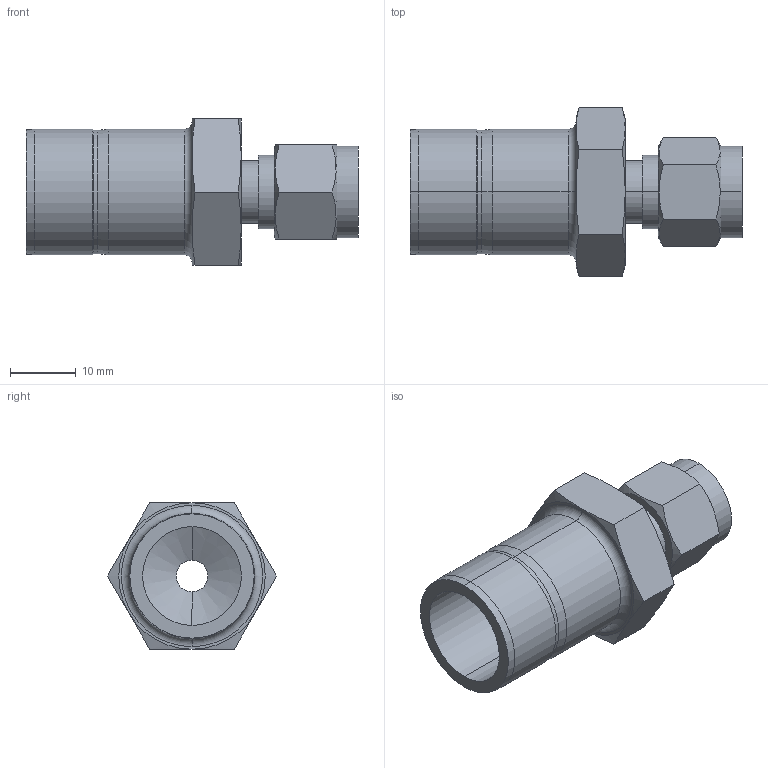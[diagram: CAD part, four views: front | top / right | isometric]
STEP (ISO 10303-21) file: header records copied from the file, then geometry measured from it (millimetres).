
FILE_DESCRIPTION (( 'STEP AP203' ), '1' );
FILE_NAME ('DRE04-12 SS.STEP', '2009-09-08T08:37:40', ( ' ' ), ( '' ), 'SwSTEP 2.0', 'SolidWorks 2008', '' );
FILE_SCHEMA (( 'CONFIG_CONTROL_DESIGN' ));
Length unit declared in the file: millimetre
Products named in the file (1): DRE04-12 SS
Bounding box: 50.4 x 25.67 x 22.23 mm (x, y, z)
Volume: 8016.2 mm3; surface area: 5365.4 mm2
Topology: 1 solids, 1 shells, 63 faces, 138 edges, 82 vertices
Faces by surface type: cone 24, plane 19, cylinder 18, torus 2
Entity records: 1957 total; most frequent: CARTESIAN_POINT 532, DIRECTION 282, ORIENTED_EDGE 276, EDGE_CURVE 138, AXIS2_PLACEMENT_3D 120, VERTEX_POINT 82, EDGE_LOOP 70, ADVANCED_FACE 63
